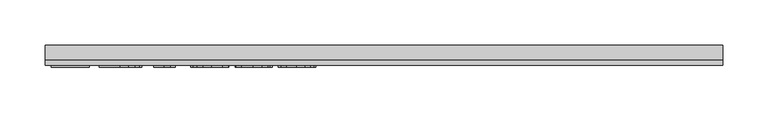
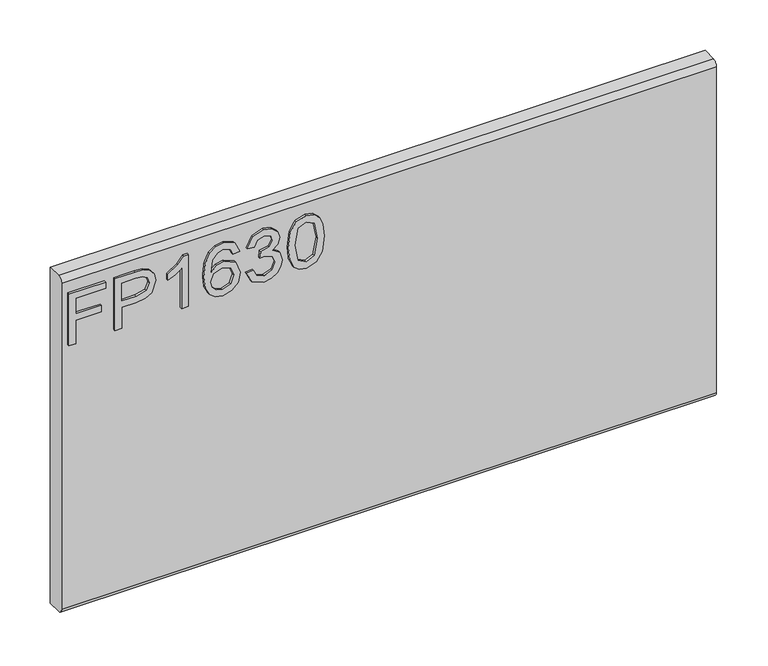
"""IFC4 building model written with IfcOpenShell, lengths in millimetres: furniture geometry."""

from ifc_helpers import new_model, si_unit, frame, origin, place, context, project, spatial, polyline, circle_curve, outline, extrude, source, transform, mapped, element, save
from ifc_brep_helpers import plane_surface, cylinder_surface, advanced_brep


def furniture_f9b3eec1(model_context):
    return source(origin(), model_context, "Body", "SolidModel", [
        extrude(outline(polyline([(476.25, -367.8115385), (476.25, -359.9961538), (504.5807692, -359.9961538), (504.5807692, -330.6884615), (512.3961538, -330.6884615), (512.3961538, -359.9961538), (530.9576923, -359.9961538), (530.9576923, -325.8038462), (538.7730769, -325.8038462), (538.7730769, -367.8115385), (476.25, -367.8115385)])), frame((0.0, -15.0812439, 0.0), z_axis=(0.0, 1.0, 0.0), x_axis=(0.0, 0.0, 1.0)), (0.0, 0.0, 1.0), 2.38125),
        extrude(outline(polyline([(476.25, -315.0576923), (476.25, -307.2423077), (501.65, -307.2423077), (501.65, -291.3520433), (503.0314303, -280.2490835), (507.1757212, -273.195012), (520.6847356, -268.1653846), (529.2099159, -270.0276442), (535.2546274, -274.9504207), (538.1777644, -282.5444712), (538.7730769, -291.8862981), (538.7730769, -315.0576923), (476.25, -315.0576923)]), holes=[polyline([(509.4653846, -307.2423077), (530.9576923, -307.2423077), (530.9576923, -291.0772837), (530.4234375, -283.261899), (526.8820913, -277.9880409), (520.409976, -275.9807692), (512.3350962, -279.3847356), (509.4653846, -290.8941106), (509.4653846, -307.2423077)])]), frame((0.0, -15.0812439, 0.0), z_axis=(0.0, 1.0, 0.0), x_axis=(0.0, 0.0, 1.0)), (0.0, 0.0, 1.0), 2.38125),
        extrude(outline(polyline([(476.25, -231.0423077), (538.7730769, -231.0423077), (538.7730769, -236.0795673), (530.4539663, -243.032512), (523.1423077, -254.4884615), (515.7543269, -254.4884615), (519.7001803, -246.2609375), (524.9740385, -238.8576923), (476.25, -238.8576923), (476.25, -231.0423077)])), frame((0.0, -15.0812439, 0.0), z_axis=(0.0, 1.0, 0.0), x_axis=(0.0, 0.0, 1.0)), (0.0, 0.0, 1.0), 2.38125),
        extrude(outline(polyline([(522.1653846, -172.4269231), (534.3616587, -178.196875), (538.7730769, -190.5457933), (536.9909555, -199.6166767), (531.6445913, -206.6192308), (521.0014724, -211.7480769), (505.4355769, -213.4576923), (491.5907452, -211.9178936), (482.2947115, -207.2984976), (477.0284856, -200.2367939), (475.2730769, -191.3700721), (477.9214543, -181.1276442), (485.5536659, -174.0296875), (496.3379808, -171.45), (510.7323317, -176.9299279), (516.3038462, -190.209976), (514.2660457, -198.7504207), (508.0305288, -205.6423077), (521.9593149, -203.4213341), (529.0649038, -198.0864183), (530.9576923, -191.0342548), (527.7063702, -183.2036058), (521.1884615, -180.2423077), (522.1653846, -172.4269231)]), holes=[polyline([(496.4600962, -205.6423077), (505.1684495, -201.757512), (508.4884615, -192.3012019), (505.1684495, -182.7227764), (496.0784856, -179.2653846), (486.5840144, -182.7685697), (483.0884615, -191.980649), (484.7751803, -199.0251803), (489.6903245, -203.8334736), (496.4600962, -205.6423077)])]), frame((0.0, -15.0812439, 0.0), z_axis=(0.0, 1.0, 0.0), x_axis=(0.0, 0.0, 1.0)), (0.0, 0.0, 1.0), 2.38125),
        extrude(outline(polyline([(492.8576923, -164.6115385), (480.1729567, -158.3989183), (475.2730769, -144.6914663), (476.7079327, -136.3380108), (481.0125, -129.5644231), (487.3777644, -125.0766827), (494.9947115, -123.5807692), (505.1608173, -126.5725962), (510.5033654, -135.0901442), (515.6780048, -128.6790865), (522.8828125, -126.5115385), (530.766887, -128.7935697), (536.6284255, -135.3878005), (538.7730769, -144.8135817), (534.4227163, -157.2388221), (522.1653846, -163.6346154), (521.1884615, -155.8192308), (528.5153846, -151.9878606), (530.9576923, -144.5388221), (528.5382813, -137.1813702), (522.4248798, -134.3269231), (515.5253606, -138.2651442), (513.3730769, -148.3854567), (505.5576923, -149.2555288), (506.4125, -143.775601), (503.2146034, -134.8917067), (495.1320913, -131.3961538), (486.5534856, -134.9222356), (483.0884615, -144.4167067), (485.6070913, -152.4839543), (493.8346154, -156.7961538), (492.8576923, -164.6115385)])), frame((0.0, -15.0812439, 0.0), z_axis=(0.0, 1.0, 0.0), x_axis=(0.0, 0.0, 1.0)), (0.0, 0.0, 1.0), 2.38125),
        extrude(outline(polyline([(507.0078125, -116.7423077), (491.800631, -115.1853365), (481.2262019, -110.5144231), (476.7613582, -104.3475962), (475.2730769, -96.2269231), (478.6999399, -84.786238), (489.095012, -77.9859375), (507.0078125, -75.7115385), (521.6998197, -77.1311298), (530.9500601, -80.7945913), (536.7581731, -87.0987981), (538.7730769, -96.2269231), (535.3691106, -107.6218149), (524.9969351, -114.445012), (507.0078125, -116.7423077)]), holes=[polyline([(507.0230769, -108.9269231), (526.7752404, -105.1413462), (530.9576923, -96.3185096), (526.2104567, -87.0682692), (507.0230769, -83.5269231), (487.6296274, -87.1903846), (483.0884615, -96.2269231), (487.614363, -105.2634615), (507.0230769, -108.9269231)])]), frame((0.0, -15.0812439, 0.0), z_axis=(0.0, 1.0, 0.0), x_axis=(0.0, 0.0, 1.0)), (0.0, 0.0, 1.0), 2.38125),
        advanced_brep(
        [(374.65, 9.5250061, 558.8), (374.65, -6.7309939, 558.8), (374.65, -12.6999939, 552.831), (374.65, -12.6999939, 158.369), (374.65, -6.7309939, 152.4), (374.65, 9.5250061, 152.4), (-374.65, 9.5250061, 558.8), (-374.65, 9.5250061, 152.4), (-374.65, -6.7309939, 152.4), (-374.65, -12.6999939, 158.369), (-374.65, -12.6999939, 552.8310121), (-374.65, -6.7309939, 558.8)],
        [
            (0, 1),
            (1, 2, circle_curve(frame((374.65, -6.7309939, 552.831), z_axis=(1.0, 0.0, 0.0), x_axis=(0.0, 1.0, 0.0)), 5.969)),
            (2, 3),
            (3, 4, circle_curve(frame((374.65, -6.7309939, 158.369), z_axis=(1.0, 0.0, 0.0), x_axis=(0.0, 1.0, 0.0)), 5.969)),
            (4, 5),
            (5, 0),
            (6, 7),
            (7, 8),
            (8, 9, circle_curve(frame((-374.65, -6.7309939, 158.369), z_axis=(-1.0, 0.0, 0.0), x_axis=(0.0, 1.0, 0.0)), 5.969)),
            (9, 10),
            (10, 11, circle_curve(frame((-374.65, -6.7309939, 552.831), z_axis=(-1.0, 0.0, 0.0), x_axis=(0.0, 1.0, 0.0)), 5.969)),
            (11, 6),
            (0, 6),
            (11, 1),
            (10, 2),
            (9, 3),
            (8, 4),
            (7, 5),
        ],
        [
            plane_surface(frame((374.65, -6.7309939, 558.8), z_axis=(1.0, 0.0, 0.0), x_axis=(0.0, -1.0, 0.0))),
            plane_surface(frame((-374.65, -6.7309939, 558.8), z_axis=(-1.0, 0.0, 0.0), x_axis=(0.0, 1.0, 0.0))),
            plane_surface(frame((374.65, 9.5250061, 558.8), z_axis=(0.0, 0.0, 1.0), x_axis=(-1.0, 0.0, 0.0))),
            cylinder_surface(frame((-374.65, -6.7309939, 552.831), z_axis=(1.0, 0.0, 0.0), x_axis=(0.0, 1.0, 0.0)), 5.969),
            plane_surface(frame((374.65, -12.6999939, 552.8310121), z_axis=(0.0, -1.0, 0.0), x_axis=(-1.0, 0.0, 0.0))),
            cylinder_surface(frame((-374.65, -6.7309939, 158.369), z_axis=(1.0, 0.0, 0.0), x_axis=(0.0, 1.0, 0.0)), 5.969),
            plane_surface(frame((374.65, -6.7309939, 152.4), z_axis=(0.0, 0.0, -1.0), x_axis=(-1.0, 0.0, 0.0))),
            plane_surface(frame((374.65, 9.5250061, 152.4), z_axis=(0.0, 1.0, 0.0), x_axis=(-1.0, 0.0, 0.0))),
        ],
        [
            (0, [[1, 2, 3, 4, 5, 6]]),
            (1, [[7, 8, 9, 10, 11, 12]]),
            (2, [[-1, 13, -12, 14]]),
            (3, [[-2, -14, -11, 15]]),
            (4, [[-3, -15, -10, 16]]),
            (5, [[-4, -16, -9, 17]]),
            (6, [[-5, -17, -8, 18]]),
            (7, [[-6, -18, -7, -13]]),
        ],
    ),
    ])


if __name__ == "__main__":
    model = new_model("IFC4")
    model_context = context("Model", 3, world=origin())
    ifc_project = project(units=[si_unit("LENGTHUNIT", "METRE", prefix="MILLI")], contexts=[model_context])
    site = spatial("IfcSite", under=ifc_project)
    building = spatial("IfcBuilding", under=site)
    placement = place(None, origin())
    furniture_shape = furniture_f9b3eec1(model_context)
    element("IfcFurniture", 1, ObjectType="HermanMiller_Ethospace_E1420_FaceTile : Ptd 16\"H x 30\"W", at=placement, inside=building, context=model_context, shape_type="MappedRepresentation", body=[
        mapped(furniture_shape, transform((0.0, 0.0, 0.0), x_axis=(1.0, 0.0, 0.0), y_axis=(0.0, 1.0, 0.0), z_axis=(0.0, 0.0, 1.0))),
    ])
    save(model, "model.ifc")
